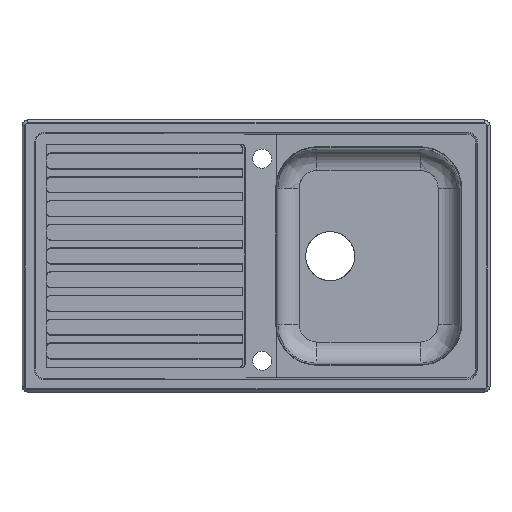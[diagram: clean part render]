
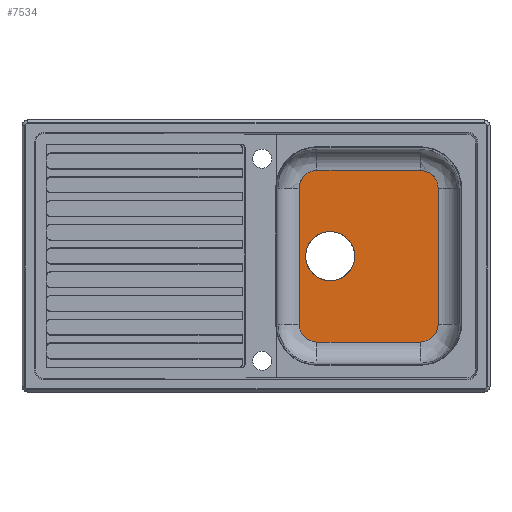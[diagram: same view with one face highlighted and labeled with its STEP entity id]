
A CAD part, top view. The second image highlights one B-rep face of the part: STEP entity #7534.
In plain terms, the highlighted planar face has unit normal (0, 0, 1).
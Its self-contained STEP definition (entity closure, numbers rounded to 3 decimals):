
#7322=CARTESIAN_POINT('Vertex',(79.273,-118.119,-208.3)) ;
#7325=CARTESIAN_POINT('Line Origine',(79.273,6.881,-208.3)) ;
#7329=CARTESIAN_POINT('Vertex',(79.273,131.881,-208.3)) ;
#7406=CARTESIAN_POINT('Axis2P3D Location',(207.,6.881,-208.3)) ;
#7412=CARTESIAN_POINT('Control Point',(112.,164.608,-208.3)) ;
#7413=CARTESIAN_POINT('Control Point',(106.859,164.608,-208.3)) ;
#7414=CARTESIAN_POINT('Control Point',(101.719,163.599,-208.3)) ;
#7415=CARTESIAN_POINT('Control Point',(96.842,161.579,-208.3)) ;
#7416=CARTESIAN_POINT('Control Point',(88.145,155.736,-208.3)) ;
#7417=CARTESIAN_POINT('Control Point',(82.302,147.039,-208.3)) ;
#7418=CARTESIAN_POINT('Control Point',(80.283,142.163,-208.3)) ;
#7419=CARTESIAN_POINT('Control Point',(79.273,137.022,-208.3)) ;
#7420=CARTESIAN_POINT('Control Point',(79.273,131.881,-208.3)) ;
#7421=CARTESIAN_POINT('Vertex',(112.,164.608,-208.3)) ;
#7425=CARTESIAN_POINT('Control Point',(79.273,-118.119,-208.3)) ;
#7426=CARTESIAN_POINT('Control Point',(79.273,-123.259,-208.3)) ;
#7427=CARTESIAN_POINT('Control Point',(80.283,-128.4,-208.3)) ;
#7428=CARTESIAN_POINT('Control Point',(82.302,-133.276,-208.3)) ;
#7429=CARTESIAN_POINT('Control Point',(88.145,-141.974,-208.3)) ;
#7430=CARTESIAN_POINT('Control Point',(96.842,-147.816,-208.3)) ;
#7431=CARTESIAN_POINT('Control Point',(101.719,-149.836,-208.3)) ;
#7432=CARTESIAN_POINT('Control Point',(106.859,-150.845,-208.3)) ;
#7433=CARTESIAN_POINT('Control Point',(112.,-150.845,-208.3)) ;
#7434=CARTESIAN_POINT('Vertex',(112.,-150.845,-208.3)) ;
#7437=CARTESIAN_POINT('Line Origine',(207.,-150.845,-208.3)) ;
#7441=CARTESIAN_POINT('Vertex',(302.,-150.845,-208.3)) ;
#7445=CARTESIAN_POINT('Control Point',(302.,-150.845,-208.3)) ;
#7446=CARTESIAN_POINT('Control Point',(307.141,-150.845,-208.3)) ;
#7447=CARTESIAN_POINT('Control Point',(312.281,-149.836,-208.3)) ;
#7448=CARTESIAN_POINT('Control Point',(317.157,-147.816,-208.3)) ;
#7449=CARTESIAN_POINT('Control Point',(325.855,-141.974,-208.3)) ;
#7450=CARTESIAN_POINT('Control Point',(331.697,-133.276,-208.3)) ;
#7451=CARTESIAN_POINT('Control Point',(333.717,-128.4,-208.3)) ;
#7452=CARTESIAN_POINT('Control Point',(334.726,-123.259,-208.3)) ;
#7453=CARTESIAN_POINT('Control Point',(334.726,-118.119,-208.3)) ;
#7454=CARTESIAN_POINT('Vertex',(334.726,-118.119,-208.3)) ;
#7457=CARTESIAN_POINT('Line Origine',(334.726,6.881,-208.3)) ;
#7461=CARTESIAN_POINT('Vertex',(334.726,131.881,-208.3)) ;
#7465=CARTESIAN_POINT('Control Point',(334.726,131.881,-208.3)) ;
#7466=CARTESIAN_POINT('Control Point',(334.726,137.022,-208.3)) ;
#7467=CARTESIAN_POINT('Control Point',(333.717,142.163,-208.3)) ;
#7468=CARTESIAN_POINT('Control Point',(331.697,147.039,-208.3)) ;
#7469=CARTESIAN_POINT('Control Point',(325.855,155.736,-208.3)) ;
#7470=CARTESIAN_POINT('Control Point',(317.157,161.579,-208.3)) ;
#7471=CARTESIAN_POINT('Control Point',(312.281,163.599,-208.3)) ;
#7472=CARTESIAN_POINT('Control Point',(307.141,164.608,-208.3)) ;
#7473=CARTESIAN_POINT('Control Point',(302.,164.608,-208.3)) ;
#7474=CARTESIAN_POINT('Vertex',(302.,164.608,-208.3)) ;
#7477=CARTESIAN_POINT('Line Origine',(207.,164.608,-208.3)) ;
#7493=CARTESIAN_POINT('Control Point',(136.3,51.881,-208.3)) ;
#7494=CARTESIAN_POINT('Control Point',(129.231,51.881,-208.3)) ;
#7495=CARTESIAN_POINT('Control Point',(122.163,50.493,-208.3)) ;
#7496=CARTESIAN_POINT('Control Point',(115.458,47.716,-208.3)) ;
#7497=CARTESIAN_POINT('Control Point',(103.499,39.683,-208.3)) ;
#7498=CARTESIAN_POINT('Control Point',(95.465,27.723,-208.3)) ;
#7499=CARTESIAN_POINT('Control Point',(92.688,21.018,-208.3)) ;
#7500=CARTESIAN_POINT('Control Point',(89.912,6.881,-208.3)) ;
#7501=CARTESIAN_POINT('Control Point',(92.688,-7.256,-208.3)) ;
#7502=CARTESIAN_POINT('Control Point',(95.465,-13.961,-208.3)) ;
#7503=CARTESIAN_POINT('Control Point',(103.499,-25.92,-208.3)) ;
#7504=CARTESIAN_POINT('Control Point',(115.458,-33.954,-208.3)) ;
#7505=CARTESIAN_POINT('Control Point',(122.163,-36.731,-208.3)) ;
#7506=CARTESIAN_POINT('Control Point',(129.231,-38.119,-208.3)) ;
#7507=CARTESIAN_POINT('Control Point',(136.3,-38.119,-208.3)) ;
#7508=CARTESIAN_POINT('Vertex',(136.3,51.881,-208.3)) ;
#7510=CARTESIAN_POINT('Vertex',(136.3,-38.119,-208.3)) ;
#7514=CARTESIAN_POINT('Control Point',(136.3,-38.119,-208.3)) ;
#7515=CARTESIAN_POINT('Control Point',(143.368,-38.119,-208.3)) ;
#7516=CARTESIAN_POINT('Control Point',(150.437,-36.731,-208.3)) ;
#7517=CARTESIAN_POINT('Control Point',(157.142,-33.954,-208.3)) ;
#7518=CARTESIAN_POINT('Control Point',(169.101,-25.92,-208.3)) ;
#7519=CARTESIAN_POINT('Control Point',(177.135,-13.961,-208.3)) ;
#7520=CARTESIAN_POINT('Control Point',(179.912,-7.256,-208.3)) ;
#7521=CARTESIAN_POINT('Control Point',(182.688,6.881,-208.3)) ;
#7522=CARTESIAN_POINT('Control Point',(179.912,21.018,-208.3)) ;
#7523=CARTESIAN_POINT('Control Point',(177.135,27.723,-208.3)) ;
#7524=CARTESIAN_POINT('Control Point',(169.101,39.683,-208.3)) ;
#7525=CARTESIAN_POINT('Control Point',(157.142,47.716,-208.3)) ;
#7526=CARTESIAN_POINT('Control Point',(150.437,50.493,-208.3)) ;
#7527=CARTESIAN_POINT('Control Point',(143.368,51.881,-208.3)) ;
#7528=CARTESIAN_POINT('Control Point',(136.3,51.881,-208.3)) ;
#7326=DIRECTION('Vector Direction',(0.,1.,0.)) ;
#7407=DIRECTION('Axis2P3D Direction',(0.,-0.,1.)) ;
#7408=DIRECTION('Axis2P3D XDirection',(0.,1.,0.)) ;
#7438=DIRECTION('Vector Direction',(-1.,0.,0.)) ;
#7458=DIRECTION('Vector Direction',(0.,1.,0.)) ;
#7478=DIRECTION('Vector Direction',(-1.,0.,0.)) ;
#7409=AXIS2_PLACEMENT_3D('Plane Axis2P3D',#7406,#7407,#7408) ;
#7483=ORIENTED_EDGE('',*,*,#7423,.T.) ;
#7484=ORIENTED_EDGE('',*,*,#7331,.F.) ;
#7485=ORIENTED_EDGE('',*,*,#7436,.T.) ;
#7486=ORIENTED_EDGE('',*,*,#7443,.F.) ;
#7487=ORIENTED_EDGE('',*,*,#7456,.T.) ;
#7488=ORIENTED_EDGE('',*,*,#7463,.F.) ;
#7489=ORIENTED_EDGE('',*,*,#7476,.T.) ;
#7490=ORIENTED_EDGE('',*,*,#7481,.F.) ;
#7531=ORIENTED_EDGE('',*,*,#7512,.F.) ;
#7532=ORIENTED_EDGE('',*,*,#7529,.F.) ;
#7533=FACE_BOUND('',#7530,.T.) ;
#7327=VECTOR('Line Direction',#7326,1.) ;
#7439=VECTOR('Line Direction',#7438,1.) ;
#7459=VECTOR('Line Direction',#7458,1.) ;
#7479=VECTOR('Line Direction',#7478,1.) ;
#7534=ADVANCED_FACE('Vasca-TP',(#7491,#7533),#7410,.T.) ;
#7411=B_SPLINE_CURVE_WITH_KNOTS('',5,(#7412,#7413,#7414,#7415,#7416,#7417,#7418,#7419,#7420),.UNSPECIFIED.,.F.,.U.,(6,3,6),(0.,25.703,51.407),.UNSPECIFIED.) ;
#7424=B_SPLINE_CURVE_WITH_KNOTS('',5,(#7425,#7426,#7427,#7428,#7429,#7430,#7431,#7432,#7433),.UNSPECIFIED.,.F.,.U.,(6,3,6),(51.407,77.11,102.813),.UNSPECIFIED.) ;
#7444=B_SPLINE_CURVE_WITH_KNOTS('',5,(#7445,#7446,#7447,#7448,#7449,#7450,#7451,#7452,#7453),.UNSPECIFIED.,.F.,.U.,(6,3,6),(102.813,128.517,154.22),.UNSPECIFIED.) ;
#7464=B_SPLINE_CURVE_WITH_KNOTS('',5,(#7465,#7466,#7467,#7468,#7469,#7470,#7471,#7472,#7473),.UNSPECIFIED.,.F.,.U.,(6,3,6),(154.22,179.924,205.627),.UNSPECIFIED.) ;
#7492=B_SPLINE_CURVE_WITH_KNOTS('',5,(#7493,#7494,#7495,#7496,#7497,#7498,#7499,#7500,#7501,#7502,#7503,#7504,#7505,#7506,#7507),.UNSPECIFIED.,.F.,.U.,(6,3,3,3,6),(0.,35.343,70.686,106.029,141.372),.UNSPECIFIED.) ;
#7513=B_SPLINE_CURVE_WITH_KNOTS('',5,(#7514,#7515,#7516,#7517,#7518,#7519,#7520,#7521,#7522,#7523,#7524,#7525,#7526,#7527,#7528),.UNSPECIFIED.,.F.,.U.,(6,3,3,3,6),(141.372,176.715,212.058,247.4,282.743),.UNSPECIFIED.) ;
#7331=EDGE_CURVE('',#7323,#7330,#7328,.T.) ;
#7423=EDGE_CURVE('',#7422,#7330,#7411,.T.) ;
#7436=EDGE_CURVE('',#7323,#7435,#7424,.T.) ;
#7443=EDGE_CURVE('',#7442,#7435,#7440,.T.) ;
#7456=EDGE_CURVE('',#7442,#7455,#7444,.T.) ;
#7463=EDGE_CURVE('',#7462,#7455,#7460,.F.) ;
#7476=EDGE_CURVE('',#7462,#7475,#7464,.T.) ;
#7481=EDGE_CURVE('',#7422,#7475,#7480,.F.) ;
#7512=EDGE_CURVE('',#7509,#7511,#7492,.T.) ;
#7529=EDGE_CURVE('',#7511,#7509,#7513,.T.) ;
#7482=EDGE_LOOP('',(#7483,#7484,#7485,#7486,#7487,#7488,#7489,#7490)) ;
#7530=EDGE_LOOP('',(#7531,#7532)) ;
#7491=FACE_OUTER_BOUND('',#7482,.T.) ;
#7328=LINE('Line',#7325,#7327) ;
#7440=LINE('Line',#7437,#7439) ;
#7460=LINE('Line',#7457,#7459) ;
#7480=LINE('Line',#7477,#7479) ;
#7410=PLANE('',#7409) ;
#7323=VERTEX_POINT('',#7322) ;
#7330=VERTEX_POINT('',#7329) ;
#7422=VERTEX_POINT('',#7421) ;
#7435=VERTEX_POINT('',#7434) ;
#7442=VERTEX_POINT('',#7441) ;
#7455=VERTEX_POINT('',#7454) ;
#7462=VERTEX_POINT('',#7461) ;
#7475=VERTEX_POINT('',#7474) ;
#7509=VERTEX_POINT('',#7508) ;
#7511=VERTEX_POINT('',#7510) ;
